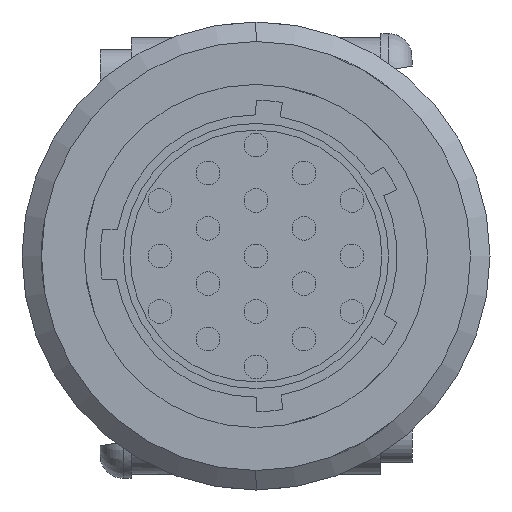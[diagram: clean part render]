
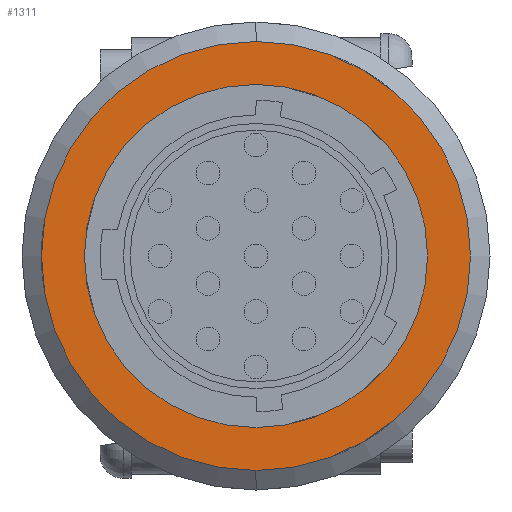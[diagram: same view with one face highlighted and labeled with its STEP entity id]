
A CAD part, left-side view. The second image highlights one B-rep face of the part: STEP entity #1311.
In plain terms, the highlighted planar face has unit normal (-1, 0, 0).
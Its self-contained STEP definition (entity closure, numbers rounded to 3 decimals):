
#28 = CIRCLE ( 'NONE', #2083, 13.75 ) ;
#263 = EDGE_CURVE ( 'NONE', #3886, #2725, #8191, .T. ) ;
#320 = AXIS2_PLACEMENT_3D ( 'NONE', #6635, #2227, #7365 ) ;
#364 = PLANE ( 'NONE',  #1120 ) ;
#395 = FACE_BOUND ( 'NONE', #5369, .T. ) ;
#588 = CARTESIAN_POINT ( 'NONE',  ( 0., 0., -11. ) ) ;
#626 = DIRECTION ( 'NONE',  ( 1., 0., 0. ) ) ;
#664 = DIRECTION ( 'NONE',  ( 0., 0., -1. ) ) ;
#784 = VERTEX_POINT ( 'NONE', #5740 ) ;
#1120 = AXIS2_PLACEMENT_3D ( 'NONE', #8988, #626, #664 ) ;
#1311 = ADVANCED_FACE ( 'NONE', ( #395, #2555 ), #364, .F. ) ;
#1412 = CARTESIAN_POINT ( 'NONE',  ( 0., 0., 0. ) ) ;
#2083 = AXIS2_PLACEMENT_3D ( 'NONE', #2763, #7914, #3493 ) ;
#2124 = DIRECTION ( 'NONE',  ( 0., 0., 1. ) ) ;
#2227 = DIRECTION ( 'NONE',  ( -1., 0., 0. ) ) ;
#2384 = CARTESIAN_POINT ( 'NONE',  ( 0., 0., -13.75 ) ) ;
#2555 = FACE_OUTER_BOUND ( 'NONE', #6500, .T. ) ;
#2725 = VERTEX_POINT ( 'NONE', #2384 ) ;
#2763 = CARTESIAN_POINT ( 'NONE',  ( 0., 0., 0. ) ) ;
#3147 = CIRCLE ( 'NONE', #7394, 11. ) ;
#3294 = DIRECTION ( 'NONE',  ( 0., 0., 1. ) ) ;
#3493 = DIRECTION ( 'NONE',  ( 0., 0., 1. ) ) ;
#3555 = EDGE_CURVE ( 'NONE', #2725, #3886, #28, .T. ) ;
#3886 = VERTEX_POINT ( 'NONE', #8201 ) ;
#4223 = ORIENTED_EDGE ( 'NONE', *, *, #8849, .F. ) ;
#4504 = CARTESIAN_POINT ( 'NONE',  ( 0., 0., 0. ) ) ;
#5043 = EDGE_CURVE ( 'NONE', #784, #6705, #6965, .T. ) ;
#5275 = ORIENTED_EDGE ( 'NONE', *, *, #263, .T. ) ;
#5369 = EDGE_LOOP ( 'NONE', ( #7893, #4223 ) ) ;
#5427 = AXIS2_PLACEMENT_3D ( 'NONE', #4504, #6026, #3294 ) ;
#5740 = CARTESIAN_POINT ( 'NONE',  ( 0., 0., 11. ) ) ;
#5957 = ORIENTED_EDGE ( 'NONE', *, *, #3555, .T. ) ;
#6026 = DIRECTION ( 'NONE',  ( -1., 0., 0. ) ) ;
#6500 = EDGE_LOOP ( 'NONE', ( #5275, #5957 ) ) ;
#6525 = DIRECTION ( 'NONE',  ( -1., 0., 0. ) ) ;
#6635 = CARTESIAN_POINT ( 'NONE',  ( 0., 0., 0. ) ) ;
#6705 = VERTEX_POINT ( 'NONE', #588 ) ;
#6965 = CIRCLE ( 'NONE', #320, 11. ) ;
#7365 = DIRECTION ( 'NONE',  ( 0., 0., 1. ) ) ;
#7394 = AXIS2_PLACEMENT_3D ( 'NONE', #1412, #6525, #2124 ) ;
#7893 = ORIENTED_EDGE ( 'NONE', *, *, #5043, .F. ) ;
#7914 = DIRECTION ( 'NONE',  ( -1., 0., 0. ) ) ;
#8191 = CIRCLE ( 'NONE', #5427, 13.75 ) ;
#8201 = CARTESIAN_POINT ( 'NONE',  ( 0., 0., 13.75 ) ) ;
#8849 = EDGE_CURVE ( 'NONE', #6705, #784, #3147, .T. ) ;
#8988 = CARTESIAN_POINT ( 'NONE',  ( 0., 0., 0. ) ) ;
